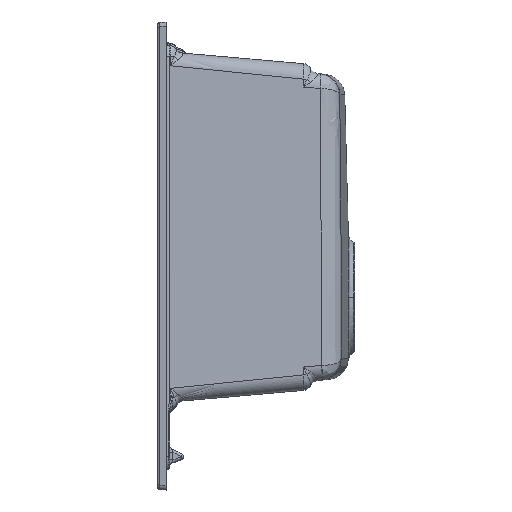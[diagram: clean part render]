
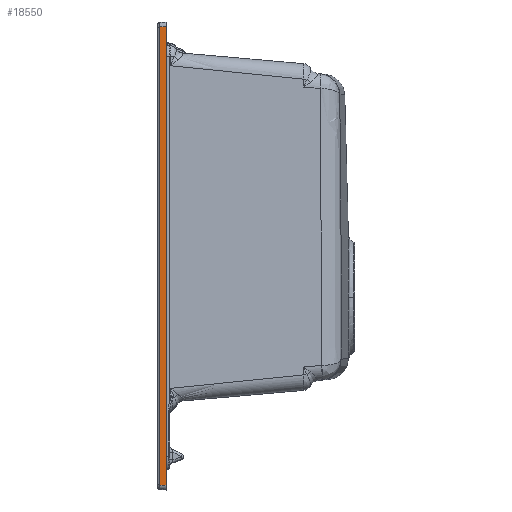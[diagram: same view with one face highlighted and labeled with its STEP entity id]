
A CAD part, left-side view. The second image highlights one B-rep face of the part: STEP entity #18550.
In plain terms, the highlighted planar face has unit normal (-0.998, 0.07, 0).
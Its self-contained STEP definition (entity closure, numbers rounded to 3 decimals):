
#749 = ORIENTED_EDGE ( 'NONE', *, *, #17449, .T. ) ;
#1512 = EDGE_CURVE ( 'NONE', #4628, #25081, #13836, .T. ) ;
#3866 = CARTESIAN_POINT ( 'NONE',  ( -429.582, 5.973, -249.595 ) ) ;
#4628 = VERTEX_POINT ( 'NONE', #19909 ) ;
#4661 = CARTESIAN_POINT ( 'NONE',  ( -429.461, 7.709, 249.473 ) ) ;
#5235 = ORIENTED_EDGE ( 'NONE', *, *, #1512, .T. ) ;
#6003 = VECTOR ( 'NONE', #21370, 1000. ) ;
#6549 = CARTESIAN_POINT ( 'NONE',  ( -429.825, 2.5, -249.837 ) ) ;
#6808 = CARTESIAN_POINT ( 'NONE',  ( -429.825, 2.5, -249.837 ) ) ;
#7495 = VECTOR ( 'NONE', #28852, 1000. ) ;
#8549 = PLANE ( 'NONE',  #26222 ) ;
#8668 = VERTEX_POINT ( 'NONE', #4661 ) ;
#9116 = EDGE_CURVE ( 'NONE', #18250, #4628, #12047, .T. ) ;
#11271 = CARTESIAN_POINT ( 'NONE',  ( -429.918, 1.167, -249.931 ) ) ;
#11551 = B_SPLINE_CURVE_WITH_KNOTS ( 'NONE', 3,
 ( #32815, #3866, #35643, #6549 ),
 .UNSPECIFIED., .F., .F.,
 ( 4, 4 ),
 ( 0., 1. ),
 .UNSPECIFIED. ) ;
#12047 = B_SPLINE_CURVE_WITH_KNOTS ( 'NONE', 3,
 ( #22820, #34566, #11271, #37414 ),
 .UNSPECIFIED., .F., .F.,
 ( 4, 4 ),
 ( 0., 1. ),
 .UNSPECIFIED. ) ;
#12707 = CARTESIAN_POINT ( 'NONE',  ( -429.461, 7.709, -249.977 ) ) ;
#12835 = DIRECTION ( 'NONE',  ( 0., 0., -1. ) ) ;
#13836 = LINE ( 'NONE', #26358, #6003 ) ;
#13903 = LINE ( 'NONE', #25402, #7495 ) ;
#14992 = ORIENTED_EDGE ( 'NONE', *, *, #15691, .F. ) ;
#15249 = CARTESIAN_POINT ( 'NONE',  ( -429.461, 7.709, -249.473 ) ) ;
#15691 = EDGE_CURVE ( 'NONE', #8668, #25081, #13903, .T. ) ;
#16225 = VERTEX_POINT ( 'NONE', #15249 ) ;
#17449 = EDGE_CURVE ( 'NONE', #16225, #18250, #11551, .T. ) ;
#18250 = VERTEX_POINT ( 'NONE', #6808 ) ;
#18550 = ADVANCED_FACE ( 'NONE', ( #27573 ), #8549, .T. ) ;
#19909 = CARTESIAN_POINT ( 'NONE',  ( -429.965, 0.5, -249.977 ) ) ;
#20347 = DIRECTION ( 'NONE',  ( -0.998, 0.07, 0. ) ) ;
#21370 = DIRECTION ( 'NONE',  ( 0., 0., 1. ) ) ;
#22820 = CARTESIAN_POINT ( 'NONE',  ( -429.825, 2.5, -249.837 ) ) ;
#23047 = VECTOR ( 'NONE', #12835, 1000. ) ;
#23303 = DIRECTION ( 'NONE',  ( -0.07, -0.998, 0. ) ) ;
#23967 = LINE ( 'NONE', #12707, #23047 ) ;
#24427 = CARTESIAN_POINT ( 'NONE',  ( -429.965, 0.5, 249.977 ) ) ;
#25081 = VERTEX_POINT ( 'NONE', #24427 ) ;
#25402 = CARTESIAN_POINT ( 'NONE',  ( -429.824, 2.513, 249.836 ) ) ;
#26222 = AXIS2_PLACEMENT_3D ( 'NONE', #34931, #20347, #23303 ) ;
#26316 = ORIENTED_EDGE ( 'NONE', *, *, #9116, .T. ) ;
#26358 = CARTESIAN_POINT ( 'NONE',  ( -429.965, 0.5, -254.965 ) ) ;
#27573 = FACE_OUTER_BOUND ( 'NONE', #29954, .T. ) ;
#28852 = DIRECTION ( 'NONE',  ( -0.07, -0.995, 0.07 ) ) ;
#29606 = ORIENTED_EDGE ( 'NONE', *, *, #34677, .T. ) ;
#29954 = EDGE_LOOP ( 'NONE', ( #14992, #29606, #749, #26316, #5235 ) ) ;
#32815 = CARTESIAN_POINT ( 'NONE',  ( -429.461, 7.709, -249.473 ) ) ;
#34566 = CARTESIAN_POINT ( 'NONE',  ( -429.872, 1.833, -249.884 ) ) ;
#34677 = EDGE_CURVE ( 'NONE', #8668, #16225, #23967, .T. ) ;
#34931 = CARTESIAN_POINT ( 'NONE',  ( -429.461, 7.709, -249.977 ) ) ;
#35643 = CARTESIAN_POINT ( 'NONE',  ( -429.704, 4.236, -249.716 ) ) ;
#37414 = CARTESIAN_POINT ( 'NONE',  ( -429.965, 0.5, -249.977 ) ) ;
